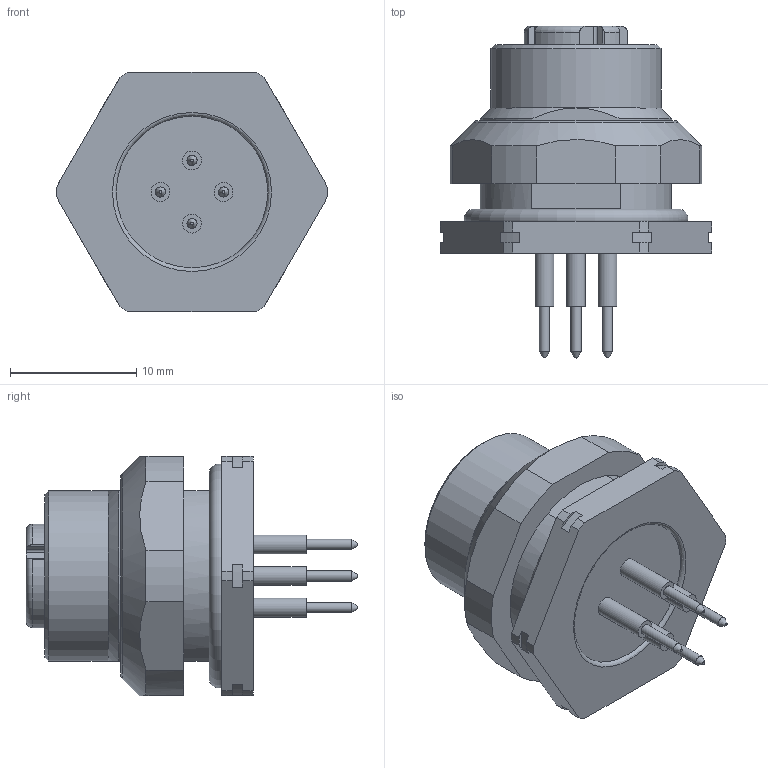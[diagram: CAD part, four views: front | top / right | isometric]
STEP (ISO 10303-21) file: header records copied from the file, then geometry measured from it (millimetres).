
FILE_DESCRIPTION((''),'2;1');
FILE_NAME('C:\TurckZip\FKFDD_44-PCB.stp','2010-06-18T12:22:24',('IKOROL'),(''),'Autodesk Inventor 2009','Autodesk Inventor 2009','');
FILE_SCHEMA(('CONFIG_CONTROL_DESIGN'));
Length unit declared in the file: millimetre
Products named in the file (1): Part14
Bounding box: 21.5 x 26.3 x 19 mm (x, y, z)
Volume: 3058.7 mm3; surface area: 3968.8 mm2
Topology: 1 solids, 12 shells, 459 faces, 1293 edges, 827 vertices
Faces by surface type: cylinder 200, plane 122, bspline 71, cone 59, torus 7
Full cylindrical faces by diameter (mm): 0.8 x4, 1.1 x4, 1.4 x4, 1.5 x4, 1.6 x8, 9.45 x1, 9.6 x1, 12 x2, 13 x1, 13.5 x1, 15.2 x1, 15.6 x1, 15.8 x1
Entity records: 18178 total; most frequent: CARTESIAN_POINT 6409, DIRECTION 2400, ORIENTED_EDGE 2310, EDGE_CURVE 1155, AXIS2_PLACEMENT_3D 1004, VERTEX_POINT 779, CIRCLE 615, EDGE_LOOP 590
